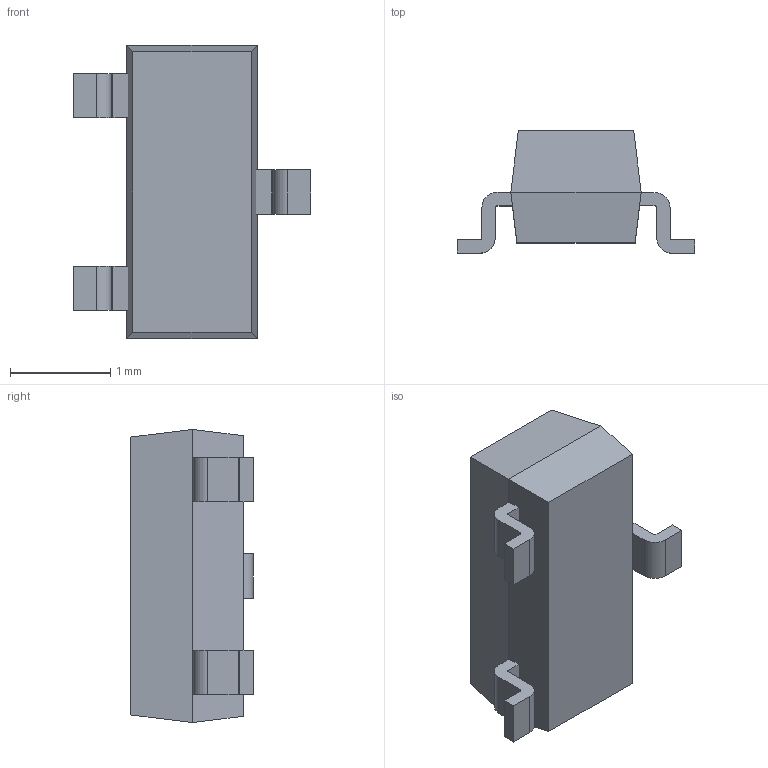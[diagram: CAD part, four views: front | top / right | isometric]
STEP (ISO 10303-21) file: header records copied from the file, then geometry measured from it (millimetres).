
FILE_DESCRIPTION (( 'STEP AP214' ), '1' );
FILE_NAME ('SI2306-TP.STEP', '2023-12-15T20:01:44', ( '' ), ( '' ), 'SwSTEP 2.0', 'SolidWorks 2021', '' );
FILE_SCHEMA (( 'AUTOMOTIVE_DESIGN' ));
Length unit declared in the file: millimetre
Products named in the file (1): SI2306-TP
Bounding box: 2.37 x 1.22 x 2.92 mm (x, y, z)
Volume: 4.1 mm3; surface area: 19.3 mm2
Topology: 4 solids, 4 shells, 52 faces, 128 edges, 84 vertices
Faces by surface type: plane 40, cylinder 12
Entity records: 1585 total; most frequent: CARTESIAN_POINT 265, DIRECTION 258, ORIENTED_EDGE 256, EDGE_CURVE 128, LINE 104, VECTOR 104, VERTEX_POINT 84, AXIS2_PLACEMENT_3D 77
